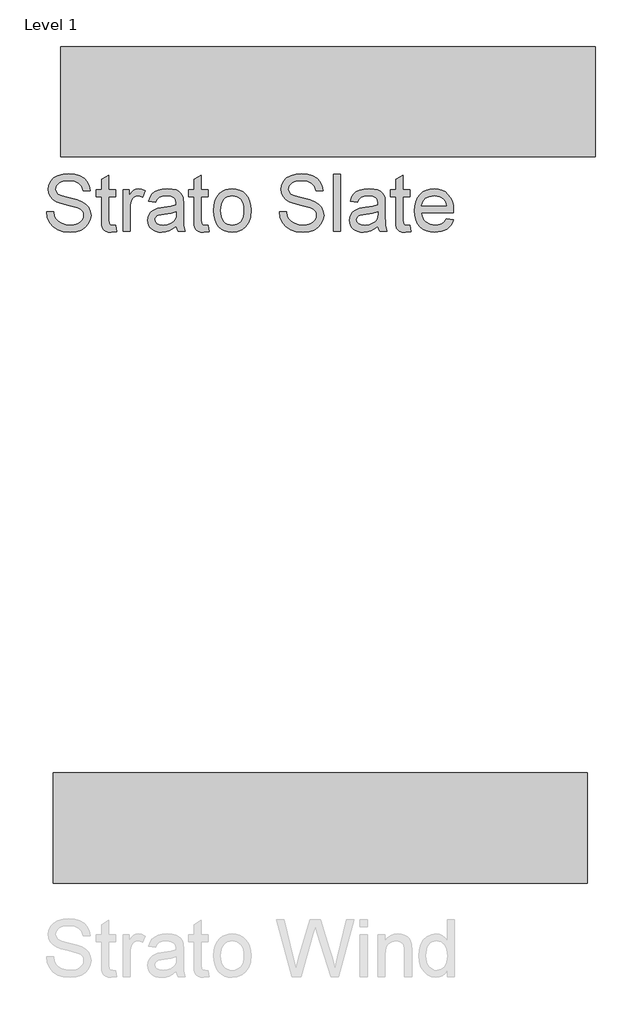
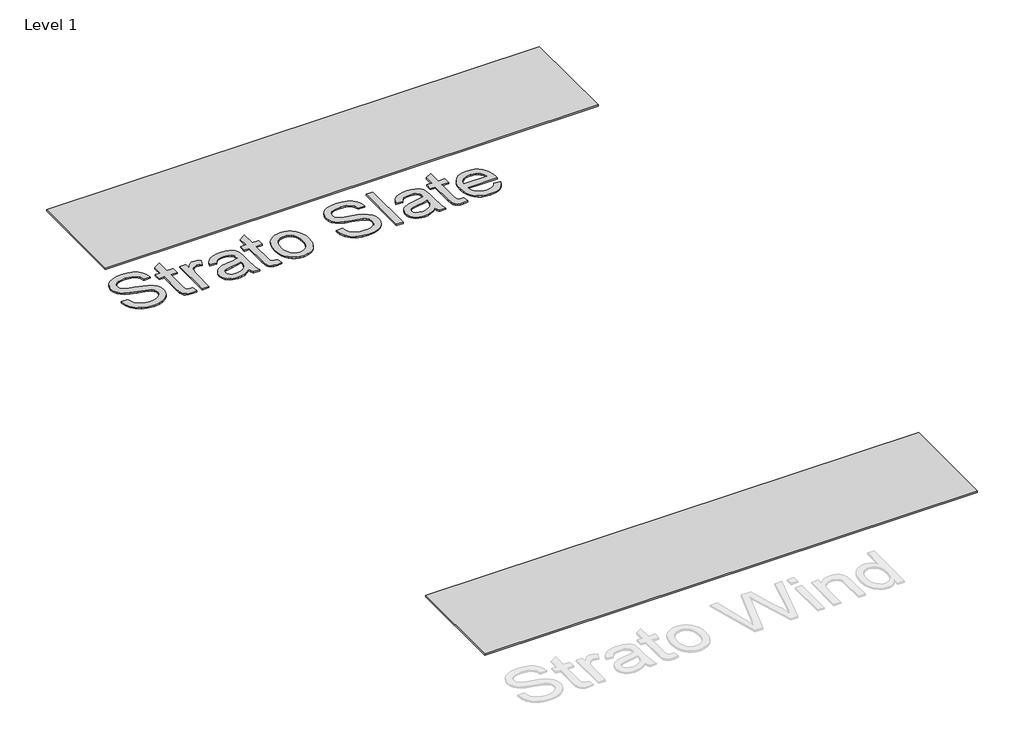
# One storey, part 2 of 2: 3 proxies.
"""IFC4 building model written with IfcOpenShell, lengths in millimetres."""

from ifc_helpers import new_model, si_unit, origin, origin_with_axes, place, context, project, spatial, polyline, outline, extrude, transform, mapped, element, save
from components import generic_models_7f56e2ab

model = new_model("IFC4")

# Units and contexts
model_context = context("Model", 3, world=origin())
ifc_project = project(units=[si_unit("LENGTHUNIT", "METRE", prefix="MILLI")], contexts=[model_context])

# Site, building, storey
site = spatial("IfcSite", under=ifc_project)
building = spatial("IfcBuilding", under=site)
storey = spatial("IfcBuildingStorey", under=building, Name="Level 1", Elevation=0.0)

# Proxies
placement = place(None, origin())
generic_models_shape = generic_models_7f56e2ab(model_context)
element("IfcBuildingElementProxy", 1, Name="Indoor-Material_HI-MACS_Strato : Natural Acrylic Stone - HI-MACS - Strato - Wind", ObjectType="Indoor-Material_HI-MACS_Strato : Natural Acrylic Stone - HI-MACS - Strato - Wind", at=placement, inside=storey, context=model_context, shape_type="MappedRepresentation", body=[
    mapped(generic_models_shape, transform((-39187.4134198, 22354.6760983, 0.0), x_axis=(1.0000000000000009, 0.0, 0.0), y_axis=(0.0, 1.0000000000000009, 0.0), z_axis=(0.0, 0.0, 1.0))),
])
element("IfcBuildingElementProxy", 2, Name="Indoor-Material_HI-MACS_Strato : Natural Acrylic Stone - HI-MACS -  Strato - Slate", ObjectType="Indoor-Material_HI-MACS_Strato : Natural Acrylic Stone - HI-MACS -  Strato - Slate", at=placement, inside=storey, context=model_context, shape_type="MappedRepresentation", body=[
    mapped(generic_models_shape, transform((-39135.0030901, 27352.3993267, 0.0), x_axis=(1.0, 0.0, 0.0), y_axis=(0.0, 1.0, 0.0), z_axis=(0.0, 0.0, 1.0))),
])
element("IfcBuildingElementProxy", 3, Name="600mm Arial", ObjectType="600mm Arial", at=placement, inside=storey, context=model_context, shape_type="SweptSolid", body=[
    extrude(outline(polyline([(-41073.5025973, 26594.6907046), (-41024.5329003, 26594.6907046), (-41018.9138189, 26567.5158703), (-41008.7516503, 26545.6731857), (-40992.8986674, 26528.3377217), (-40970.2071427, 26514.6845493), (-40942.4704003, 26505.8255294), (-40911.481764, 26502.8725228), (-40884.1993302, 26505.1081999), (-40860.3122564, 26511.8152311), (-40840.9563141, 26522.4317084), (-40827.2672753, 26536.3957236), (-40819.125585, 26552.4280389), (-40816.4116882, 26569.2494167), (-40818.4441219, 26585.6403968), (-40824.5414231, 26599.8076554), (-40836.9273132, 26611.8946582), (-40857.825514, 26622.0448713), (-40929.1280708, 26640.7432614), (-40975.9338236, 26653.1171961), (-41005.8823321, 26664.8933561), (-41030.2595812, 26681.3680247), (-41047.5352677, 26701.333697), (-41057.8289467, 26724.3599754), (-41061.2601731, 26750.0164622), (-41057.0159732, 26778.6976885), (-41044.2833738, 26805.4421251), (-41023.3971285, 26828.1097387), (-40994.6919912, 26844.5604963), (-40960.2362621, 26854.5672434), (-40922.0982412, 26857.9028258), (-40880.7800594, 26854.411822), (-40844.6266503, 26843.9388107), (-40814.9292071, 26826.6989906), (-40792.9789231, 26802.9075607), (-40779.0866409, 26774.047002), (-40773.5632034, 26741.5997955), (-40822.5329003, 26741.5997955), (-40831.5234306, 26770.819019), (-40850.2696427, 26791.9085076), (-40879.5605992, 26804.6769736), (-40920.1853624, 26808.9331289), (-40961.7665651, 26804.7247955), (-40977.6613923, 26799.4643789), (-40990.29237, 26792.0997955), (-41006.7909496, 26773.5209603), (-41012.2904761, 26751.4511213), (-41008.3929856, 26732.6331762), (-40996.700514, 26717.4975228), (-40969.0594155, 26703.9639054), (-40916.7421806, 26690.1433561), (-40862.7511768, 26677.0162254), (-40830.0887715, 26665.5628637), (-40802.1726967, 26647.797002), (-40782.6971996, 26625.8706289), (-40771.2557933, 26600.0228542), (-40767.4419912, 26570.4927879), (-40771.829657, 26540.3051696), (-40784.9926541, 26511.9108751), (-40806.3929856, 26487.4738486), (-40835.4926541, 26469.1580342), (-40870.4863804, 26457.7166279), (-40909.5688852, 26453.9028258), (-40957.5462763, 26458.0155152), (-40997.0352677, 26470.3535834), (-41028.4901683, 26490.9648523), (-41052.3652867, 26519.897144), (-41067.692228, 26555.1419357), (-41073.5025973, 26594.6907046)])), origin_with_axes(), (0.0, 0.0, 1.0), 10.0),
    extrude(outline(polyline([(-40596.0480518, 26500.8640001), (-40589.9268397, 26458.5893789), (-40626.5584685, 26453.9028258), (-40650.0629666, 26455.9352595), (-40667.5897185, 26462.0325607), (-40679.9756087, 26471.4295777), (-40688.0575215, 26483.3611592), (-40692.5049647, 26503.8528732), (-40693.9874458, 26538.9302879), (-40693.9874458, 26698.7513107), (-40730.7147185, 26698.7513107), (-40730.7147185, 26747.7210076), (-40693.9874458, 26747.7210076), (-40693.9874458, 26817.6367273), (-40645.0177488, 26846.4255531), (-40645.0177488, 26747.7210076), (-40596.0480518, 26747.7210076), (-40596.0480518, 26698.7513107), (-40645.0177488, 26698.7513107), (-40645.0177488, 26540.364947), (-40642.4353624, 26515.114947), (-40634.0665177, 26506.1722387), (-40617.3766503, 26502.8725228), (-40596.0480518, 26500.8640001)])), origin_with_axes(), (0.0, 0.0, 1.0), 10.0),
    extrude(outline(polyline([(-40547.0783549, 26460.0240379), (-40547.0783549, 26747.7210076), (-40504.22987, 26747.7210076), (-40504.22987, 26705.1594546), (-40488.4007981, 26729.835591), (-40473.8150973, 26744.3734698), (-40459.1815746, 26751.4750323), (-40443.2090367, 26753.8422198), (-40418.8198321, 26750.0642842), (-40394.0480518, 26738.7304773), (-40410.4031655, 26694.8299092), (-40427.6190746, 26702.3618694), (-40444.8349837, 26704.8725228), (-40459.4565509, 26702.4575133), (-40472.5239041, 26695.2124849), (-40483.0806039, 26683.6873902), (-40490.1702109, 26668.4321819), (-40496.1240462, 26641.0780152), (-40498.1086579, 26611.2371061), (-40498.1086579, 26460.0240379), (-40547.0783549, 26460.0240379)])), origin_with_axes(), (0.0, 0.0, 1.0), 10.0),
    extrude(outline(polyline([(-40179.8056276, 26496.7513107), (-40203.2025263, 26476.6899944), (-40227.2928435, 26463.5628637), (-40252.626532, 26456.3178353), (-40279.7535443, 26453.9028258), (-40301.5573736, 26455.3554182), (-40320.6771948, 26459.7131951), (-40337.113008, 26466.9761568), (-40350.8648132, 26477.1443031), (-40361.7233892, 26489.5720375), (-40369.4795149, 26503.6137633), (-40374.1331903, 26519.2694807), (-40375.6844155, 26536.5391895), (-40373.341139, 26556.8396156), (-40366.3113094, 26575.2749849), (-40355.4676778, 26591.0562349), (-40341.682995, 26603.3943031), (-40307.3946427, 26619.4624849), (-40265.0243776, 26626.8270682), (-40214.9547753, 26634.5742273), (-40180.0925594, 26643.6604016), (-40179.8056276, 26654.5638107), (-40183.1770765, 26676.4184508), (-40193.2914231, 26690.7172198), (-40215.9112147, 26701.333697), (-40247.4258927, 26704.8725228), (-40276.5972943, 26702.5172908), (-40296.9694534, 26695.4515948), (-40310.8617356, 26682.3842415), (-40320.5935064, 26662.0240379), (-40369.5632034, 26668.1452501), (-40361.0628482, 26694.9255531), (-40348.3780708, 26715.9672198), (-40330.3252772, 26732.0593126), (-40305.7208738, 26743.990894), (-40275.6288994, 26751.3793883), (-40241.1133927, 26753.8422198), (-40208.0086342, 26751.6663201), (-40181.7663284, 26745.1386213), (-40161.9799884, 26735.323162), (-40148.2431276, 26723.2839811), (-40139.1330424, 26708.3993931), (-40133.2270291, 26690.0477122), (-40130.8359306, 26647.1992273), (-40130.8359306, 26586.2740379), (-40128.3491882, 26501.1987539), (-40118.5935064, 26460.0240379), (-40167.5632034, 26460.0240379), (-40175.4060064, 26477.0486592), (-40179.8056276, 26496.7513107)]), holes=[polyline([(-40179.8056276, 26594.6907046), (-40212.7071427, 26586.5370588), (-40258.8075215, 26579.6746061), (-40300.9386768, 26571.7361592), (-40311.9018634, 26566.3083656), (-40320.0196427, 26558.8242273), (-40325.0409496, 26549.857608), (-40326.7147185, 26539.9823713), (-40323.0682933, 26525.4205815), (-40312.1290177, 26513.4890001), (-40294.1360016, 26505.5266421), (-40269.3283549, 26502.8725228), (-40243.0262715, 26505.8016184), (-40219.7847943, 26514.5889054), (-40200.9429382, 26527.5367037), (-40187.8397185, 26542.9473334), (-40182.0293492, 26558.8242273), (-40180.0925594, 26580.8223334), (-40179.8056276, 26594.6907046)])]), origin_with_axes(), (0.0, 0.0, 1.0), 10.0),
    extrude(outline(polyline([(-39959.4419912, 26500.8640001), (-39953.3207791, 26458.5893789), (-39989.9524079, 26453.9028258), (-40013.456906, 26455.9352595), (-40030.9836579, 26462.0325607), (-40043.3695481, 26471.4295777), (-40051.4514609, 26483.3611592), (-40055.8989041, 26503.8528732), (-40057.3813852, 26538.9302879), (-40057.3813852, 26698.7513107), (-40094.1086579, 26698.7513107), (-40094.1086579, 26747.7210076), (-40057.3813852, 26747.7210076), (-40057.3813852, 26817.6367273), (-40008.4116882, 26846.4255531), (-40008.4116882, 26747.7210076), (-39959.4419912, 26747.7210076), (-39959.4419912, 26698.7513107), (-40008.4116882, 26698.7513107), (-40008.4116882, 26540.364947), (-40005.8293018, 26515.114947), (-39997.4604571, 26506.1722387), (-39980.7705897, 26502.8725228), (-39959.4419912, 26500.8640001)])), origin_with_axes(), (0.0, 0.0, 1.0), 10.0),
    extrude(outline(polyline([(-39922.7147185, 26603.8725228), (-39920.0665769, 26641.1318149), (-39912.1221522, 26673.2382898), (-39898.8814444, 26700.1919475), (-39880.3444534, 26721.9927879), (-39861.6819297, 26735.9269144), (-39841.0826162, 26745.8798618), (-39818.546513, 26751.8516303), (-39794.07362, 26753.8422198), (-39767.057196, 26751.4182437), (-39742.6291361, 26744.1463154), (-39720.7894403, 26732.026435), (-39701.5381087, 26715.0586023), (-39685.8256027, 26693.8166812), (-39674.6023842, 26668.8745351), (-39667.8684531, 26640.2321641), (-39665.6238094, 26607.8895682), (-39669.5930329, 26558.4177406), (-39681.5007034, 26520.7579395), (-39701.0001115, 26492.5549328), (-39727.7445481, 26471.4534887), (-39759.5102914, 26458.2904915), (-39794.07362, 26453.9028258), (-39821.4845753, 26456.3178353), (-39846.1397895, 26463.5628637), (-39868.0392628, 26475.6379111), (-39887.182995, 26492.5429773), (-39902.728124, 26513.9911307), (-39913.8317876, 26539.6954395), (-39920.4939858, 26569.6559035), (-39922.7147185, 26603.8725228)]), holes=[polyline([(-39873.7450215, 26603.9681667), (-39872.3282957, 26580.2155922), (-39868.0781181, 26559.6491563), (-39860.9944889, 26542.2688592), (-39851.0774079, 26528.0747008), (-39839.014316, 26517.0487479), (-39825.4926541, 26509.1730673), (-39810.5124221, 26504.4476589), (-39794.07362, 26502.8725228), (-39777.7185064, 26504.4566255), (-39762.7980518, 26509.2089338), (-39749.3122564, 26517.1294475), (-39737.26112, 26528.2181667), (-39727.3440391, 26542.5528022), (-39720.2604098, 26560.2110645), (-39716.0102322, 26581.1929537), (-39714.5935064, 26605.4984698), (-39716.0191989, 26628.4978483), (-39720.2962763, 26648.526287), (-39727.4247386, 26665.5837858), (-39737.4045859, 26679.6703448), (-39749.5005554, 26690.6962977), (-39762.9773842, 26698.5719783), (-39777.8350724, 26703.2973867), (-39794.07362, 26704.8725228), (-39810.5124221, 26703.3033644), (-39825.4926541, 26698.5958893), (-39839.014316, 26690.7500974), (-39851.0774079, 26679.7659887), (-39860.9944889, 26665.6136745), (-39868.0781181, 26648.2632662), (-39872.3282957, 26627.7147636), (-39873.7450215, 26603.9681667)])]), origin_with_axes(), (0.0, 0.0, 1.0), 10.0),
    extrude(outline(polyline([(-39469.7450215, 26594.6907046), (-39420.7753246, 26594.6907046), (-39415.1562431, 26567.5158703), (-39404.9940746, 26545.6731857), (-39389.1410916, 26528.3377217), (-39366.449567, 26514.6845493), (-39338.7128246, 26505.8255294), (-39307.7241882, 26502.8725228), (-39280.4417545, 26505.1081999), (-39256.5546806, 26511.8152311), (-39237.1987384, 26522.4317084), (-39223.5096996, 26536.3957236), (-39215.3680092, 26552.4280389), (-39212.6541124, 26569.2494167), (-39214.6865462, 26585.6403968), (-39220.7838473, 26599.8076554), (-39233.1697374, 26611.8946582), (-39254.0679382, 26622.0448713), (-39325.370495, 26640.7432614), (-39372.1762479, 26653.1171961), (-39402.1247564, 26664.8933561), (-39426.5020054, 26681.3680247), (-39443.777692, 26701.333697), (-39454.071371, 26724.3599754), (-39457.5025973, 26750.0164622), (-39453.2583975, 26778.6976885), (-39440.5257981, 26805.4421251), (-39419.6395528, 26828.1097387), (-39390.9344155, 26844.5604963), (-39356.4786863, 26854.5672434), (-39318.3406655, 26857.9028258), (-39277.0224837, 26854.411822), (-39240.8690746, 26843.9388107), (-39211.1716314, 26826.6989906), (-39189.2213473, 26802.9075607), (-39175.3290651, 26774.047002), (-39169.8056276, 26741.5997955), (-39218.7753246, 26741.5997955), (-39227.7658549, 26770.819019), (-39246.512067, 26791.9085076), (-39275.8030234, 26804.6769736), (-39316.4277867, 26808.9331289), (-39358.0089893, 26804.7247955), (-39373.9038165, 26799.4643789), (-39386.5347943, 26792.0997955), (-39403.0333738, 26773.5209603), (-39408.5329003, 26751.4511213), (-39404.6354098, 26732.6331762), (-39392.9429382, 26717.4975228), (-39365.3018397, 26703.9639054), (-39312.9846049, 26690.1433561), (-39258.9936011, 26677.0162254), (-39226.3311958, 26665.5628637), (-39198.415121, 26647.797002), (-39178.9396238, 26625.8706289), (-39167.4982176, 26600.0228542), (-39163.6844155, 26570.4927879), (-39168.0720812, 26540.3051696), (-39181.2350784, 26511.9108751), (-39202.6354098, 26487.4738486), (-39231.7350784, 26469.1580342), (-39266.7288047, 26457.7166279), (-39305.8113094, 26453.9028258), (-39353.7887005, 26458.0155152), (-39393.277692, 26470.3535834), (-39424.7325926, 26490.9648523), (-39448.6077109, 26519.897144), (-39463.9346522, 26555.1419357), (-39469.7450215, 26594.6907046)])), origin_with_axes(), (0.0, 0.0, 1.0), 10.0),
    extrude(outline(polyline([(-39096.3510821, 26460.0240379), (-39096.3510821, 26851.7816137), (-39047.3813852, 26851.7816137), (-39047.3813852, 26460.0240379), (-39096.3510821, 26460.0240379)])), origin_with_axes(), (0.0, 0.0, 1.0), 10.0),
    extrude(outline(polyline([(-38790.2904761, 26496.7513107), (-38813.6873748, 26476.6899944), (-38837.777692, 26463.5628637), (-38863.1113804, 26456.3178353), (-38890.2383927, 26453.9028258), (-38912.0422221, 26455.3554182), (-38931.1620433, 26459.7131951), (-38947.5978565, 26466.9761568), (-38961.3496617, 26477.1443031), (-38972.2082377, 26489.5720375), (-38979.9643634, 26503.6137633), (-38984.6180388, 26519.2694807), (-38986.169264, 26536.5391895), (-38983.8259874, 26556.8396156), (-38976.7961579, 26575.2749849), (-38965.9525263, 26591.0562349), (-38952.1678435, 26603.3943031), (-38917.8794912, 26619.4624849), (-38875.5092261, 26626.8270682), (-38825.4396238, 26634.5742273), (-38790.5774079, 26643.6604016), (-38790.2904761, 26654.5638107), (-38793.6619249, 26676.4184508), (-38803.7762715, 26690.7172198), (-38826.3960632, 26701.333697), (-38857.9107412, 26704.8725228), (-38887.0821427, 26702.5172908), (-38907.4543018, 26695.4515948), (-38921.346584, 26682.3842415), (-38931.0783549, 26662.0240379), (-38980.0480518, 26668.1452501), (-38971.5476967, 26694.9255531), (-38958.8629193, 26715.9672198), (-38940.8101257, 26732.0593126), (-38916.2057223, 26743.990894), (-38886.1137479, 26751.3793883), (-38851.5982412, 26753.8422198), (-38818.4934827, 26751.6663201), (-38792.2511768, 26745.1386213), (-38772.4648369, 26735.323162), (-38758.7279761, 26723.2839811), (-38749.6178909, 26708.3993931), (-38743.7118776, 26690.0477122), (-38741.3207791, 26647.1992273), (-38741.3207791, 26586.2740379), (-38738.8340367, 26501.1987539), (-38729.0783549, 26460.0240379), (-38778.0480518, 26460.0240379), (-38785.8908549, 26477.0486592), (-38790.2904761, 26496.7513107)]), holes=[polyline([(-38790.2904761, 26594.6907046), (-38823.1919912, 26586.5370588), (-38869.29237, 26579.6746061), (-38911.4235253, 26571.7361592), (-38922.3867119, 26566.3083656), (-38930.5044912, 26558.8242273), (-38935.5257981, 26549.857608), (-38937.199567, 26539.9823713), (-38933.5531418, 26525.4205815), (-38922.6138662, 26513.4890001), (-38904.6208501, 26505.5266421), (-38879.8132034, 26502.8725228), (-38853.51112, 26505.8016184), (-38830.2696427, 26514.5889054), (-38811.4277867, 26527.5367037), (-38798.324567, 26542.9473334), (-38792.5141977, 26558.8242273), (-38790.5774079, 26580.8223334), (-38790.2904761, 26594.6907046)])]), origin_with_axes(), (0.0, 0.0, 1.0), 10.0),
    extrude(outline(polyline([(-38569.9268397, 26500.8640001), (-38563.8056276, 26458.5893789), (-38600.4372564, 26453.9028258), (-38623.9417545, 26455.9352595), (-38641.4685064, 26462.0325607), (-38653.8543965, 26471.4295777), (-38661.9363094, 26483.3611592), (-38666.3837526, 26503.8528732), (-38667.8662337, 26538.9302879), (-38667.8662337, 26698.7513107), (-38704.5935064, 26698.7513107), (-38704.5935064, 26747.7210076), (-38667.8662337, 26747.7210076), (-38667.8662337, 26817.6367273), (-38618.8965367, 26846.4255531), (-38618.8965367, 26747.7210076), (-38569.9268397, 26747.7210076), (-38569.9268397, 26698.7513107), (-38618.8965367, 26698.7513107), (-38618.8965367, 26540.364947), (-38616.3141503, 26515.114947), (-38607.9453056, 26506.1722387), (-38591.2554382, 26502.8725228), (-38569.9268397, 26500.8640001)])), origin_with_axes(), (0.0, 0.0, 1.0), 10.0),
    extrude(outline(polyline([(-38319.5310064, 26545.7210076), (-38271.5177488, 26539.5997955), (-38278.8793433, 26520.369386), (-38288.8173463, 26503.4224754), (-38301.331758, 26488.759064), (-38316.4225784, 26476.3791516), (-38333.9343859, 26466.5457591), (-38353.7117592, 26459.5219073), (-38400.0632034, 26453.9028258), (-38430.4480874, 26456.3268019), (-38457.5212999, 26463.5987302), (-38481.2828411, 26475.7186106), (-38501.7327109, 26492.6864432), (-38518.1774908, 26514.0299861), (-38529.9237621, 26539.2769972), (-38536.9715249, 26568.4274766), (-38539.3207791, 26601.4814243), (-38536.9476139, 26635.6561994), (-38529.8281181, 26665.7780626), (-38517.9622919, 26691.8470138), (-38501.3501352, 26713.8630531), (-38480.9540651, 26731.3539385), (-38457.7364988, 26743.8474281), (-38431.6974363, 26751.3435218), (-38402.8368776, 26753.8422198), (-38374.9058584, 26751.3494996), (-38349.6468918, 26743.8713391), (-38327.0599777, 26731.4077382), (-38307.1451162, 26713.958697), (-38290.8886354, 26691.9904797), (-38279.2768634, 26665.9693504), (-38272.3098002, 26635.8953093), (-38269.9874458, 26601.7683561), (-38270.2743776, 26588.5694925), (-38490.3510821, 26588.5694925), (-38487.5146416, 26569.0282401), (-38481.874638, 26551.9139527), (-38473.4310715, 26537.2266303), (-38462.183942, 26524.9662728), (-38433.7657365, 26508.3959603), (-38399.106764, 26502.8725228), (-38373.0437905, 26505.4309982), (-38351.0935064, 26513.1064243), (-38333.2559117, 26526.3770209), (-38319.5310064, 26545.7210076)]), holes=[polyline([(-38490.3510821, 26637.5391895), (-38318.9571427, 26637.5391895), (-38325.5804856, 26663.4108751), (-38338.5641503, 26681.9179773), (-38351.9184354, 26691.960591), (-38367.1138662, 26699.1338864), (-38403.0281655, 26704.8725228), (-38436.0372801, 26700.2935692), (-38463.3316693, 26686.5567084), (-38482.3050357, 26665.1444215), (-38490.3510821, 26637.5391895)])]), origin_with_axes(), (0.0, 0.0, 1.0), 10.0),
])

save(model, "model.ifc")
